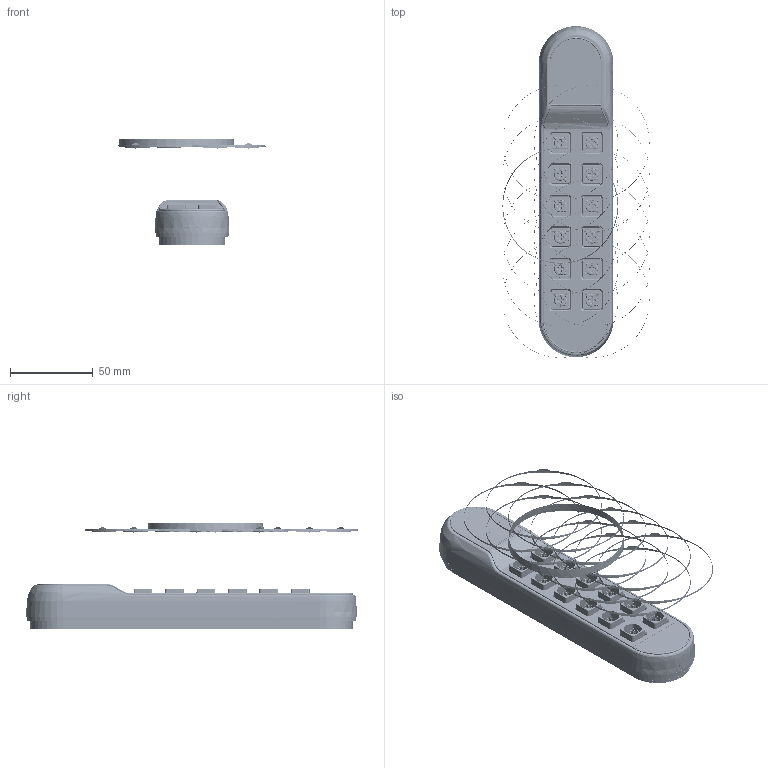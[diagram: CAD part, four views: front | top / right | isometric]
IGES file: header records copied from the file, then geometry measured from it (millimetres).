
Start section: SolidWorks IGES file using analytic representation for surfaces
Global section: file name: C:\Users\ChristoforosO\Desktop\DS66-2W20~1.IGS; native system: SolidWorks 2018; preprocessor: SolidWorks 2018; author: ChristoforosO; date: 201126.104753; units: millimetre
Bounding box: 88.91 x 200.56 x 64.57 mm (x, y, z)
Surface area: 130239.3 mm2 (no closed solid volume)
Topology: 0 solids, 0 shells, 2964 faces, 31061 edges, 30929 vertices
Faces by surface type: bspline 1898, revolution 1066
